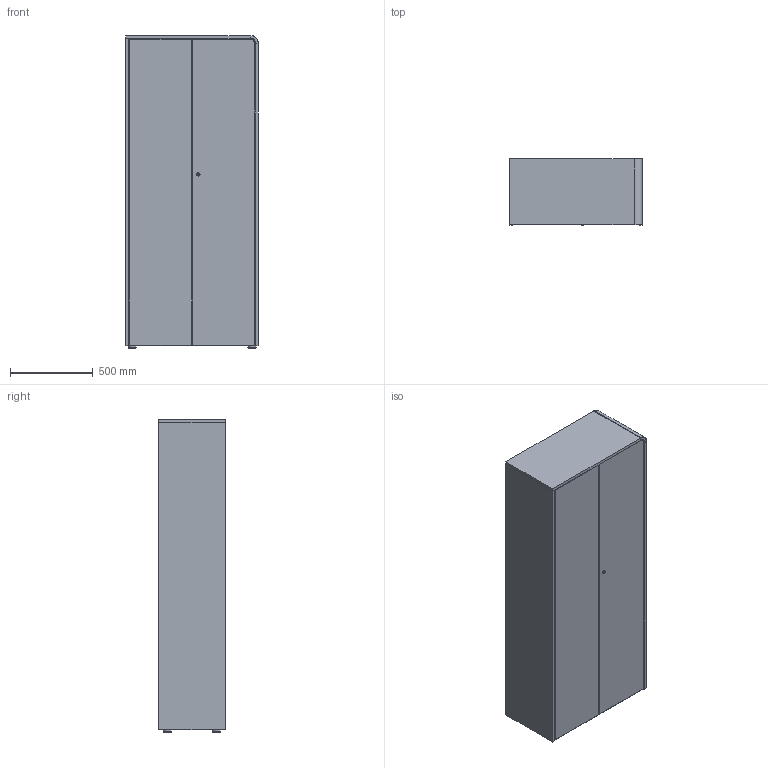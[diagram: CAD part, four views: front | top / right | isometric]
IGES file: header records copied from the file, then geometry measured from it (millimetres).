
Start section: SolidWorks IGES file using analytic representation for surfaces
Global section: file name: C:\Documents and Settings\mbiesiadecki\Moje dokumenty\MEBLE\SYSTEMY BIUROWE\6 VANCOUVER\VANCOUVER - Piktogramy\Vri-pikt-NT\Vr-58bdr-t02P.IGS; native system: SolidWorks 2011; preprocessor: SolidWorks 2011; author: mbiesiadecki; date: 110923.162223; units: millimetre
Bounding box: 800.5 x 400.2 x 1887.5 mm (x, y, z)
Volume: 85192207.6 mm3; surface area: 10003584.5 mm2
Topology: 3 solids, 3 shells, 157 faces, 372 edges, 219 vertices
Faces by surface type: plane 78, revolution 71, bspline 8
